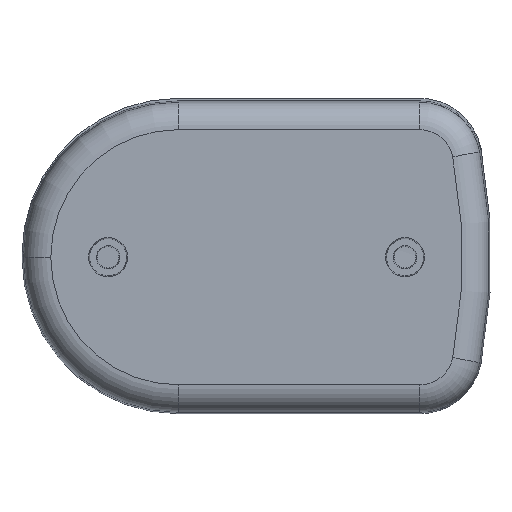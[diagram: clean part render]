
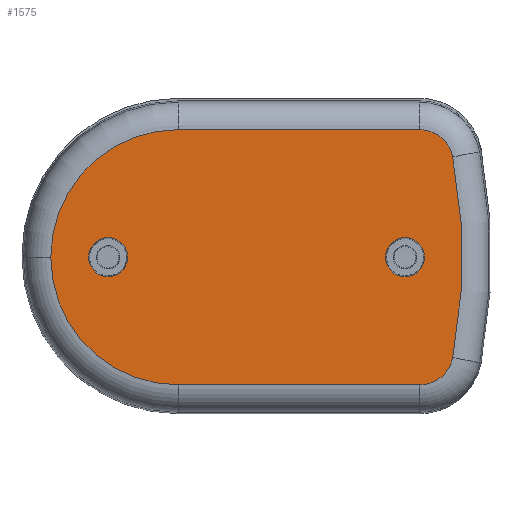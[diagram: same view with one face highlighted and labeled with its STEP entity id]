
A CAD part, top view. The second image highlights one B-rep face of the part: STEP entity #1575.
In plain terms, the highlighted planar face has unit normal (0, 0, 1).
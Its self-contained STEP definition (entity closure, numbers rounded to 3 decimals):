
#1470=FACE_BOUND('',#1997,.T.);
#1471=FACE_BOUND('',#1998,.T.);
#1472=FACE_BOUND('',#1999,.T.);
#1501=PLANE('',#4773);
#1575=ADVANCED_FACE('',(#1470,#1471,#1472),#1501,.T.);
#1997=EDGE_LOOP('',(#2764,#2765,#2766,#2767,#2768,#2769,#2770,#2771));
#1998=EDGE_LOOP('',(#2772));
#1999=EDGE_LOOP('',(#2773));
#2228=LINE('',#6024,#2460);
#2229=LINE('',#6033,#2461);
#2230=LINE('',#6037,#2462);
#2460=VECTOR('',#5180,1.);
#2461=VECTOR('',#5187,1.);
#2462=VECTOR('',#5190,1.);
#2764=ORIENTED_EDGE('',*,*,#3958,.T.);
#2765=ORIENTED_EDGE('',*,*,#3959,.T.);
#2766=ORIENTED_EDGE('',*,*,#3960,.T.);
#2767=ORIENTED_EDGE('',*,*,#3961,.T.);
#2768=ORIENTED_EDGE('',*,*,#3962,.T.);
#2769=ORIENTED_EDGE('',*,*,#3963,.T.);
#2770=ORIENTED_EDGE('',*,*,#3964,.T.);
#2771=ORIENTED_EDGE('',*,*,#3965,.T.);
#2772=ORIENTED_EDGE('',*,*,#3966,.F.);
#2773=ORIENTED_EDGE('',*,*,#3967,.F.);
#3654=VERTEX_POINT('',#6025);
#3655=VERTEX_POINT('',#6026);
#3656=VERTEX_POINT('',#6028);
#3657=VERTEX_POINT('',#6030);
#3658=VERTEX_POINT('',#6032);
#3659=VERTEX_POINT('',#6034);
#3660=VERTEX_POINT('',#6036);
#3661=VERTEX_POINT('',#6038);
#3662=VERTEX_POINT('',#6041);
#3663=VERTEX_POINT('',#6043);
#3958=EDGE_CURVE('',#3654,#3655,#2228,.T.);
#3959=EDGE_CURVE('',#3655,#3656,#4388,.T.);
#3960=EDGE_CURVE('',#3656,#3657,#4389,.T.);
#3961=EDGE_CURVE('',#3657,#3658,#4390,.T.);
#3962=EDGE_CURVE('',#3658,#3659,#2229,.T.);
#3963=EDGE_CURVE('',#3659,#3660,#4391,.T.);
#3964=EDGE_CURVE('',#3660,#3661,#2230,.T.);
#3965=EDGE_CURVE('',#3661,#3654,#4392,.T.);
#3966=EDGE_CURVE('',#3662,#3662,#4393,.T.);
#3967=EDGE_CURVE('',#3663,#3663,#4394,.T.);
#4388=CIRCLE('',#4766,4.312);
#4389=CIRCLE('',#4767,67.712);
#4390=CIRCLE('',#4768,4.312);
#4391=CIRCLE('',#4769,16.312);
#4392=CIRCLE('',#4770,16.312);
#4393=CIRCLE('',#4771,2.5);
#4394=CIRCLE('',#4772,2.5);
#4766=AXIS2_PLACEMENT_3D('',#6027,#5181,#5182);
#4767=AXIS2_PLACEMENT_3D('',#6029,#5183,#5184);
#4768=AXIS2_PLACEMENT_3D('',#6031,#5185,#5186);
#4769=AXIS2_PLACEMENT_3D('',#6035,#5188,#5189);
#4770=AXIS2_PLACEMENT_3D('',#6039,#5191,#5192);
#4771=AXIS2_PLACEMENT_3D('',#6040,#5193,#5194);
#4772=AXIS2_PLACEMENT_3D('',#6042,#5195,#5196);
#4773=AXIS2_PLACEMENT_3D('',#6044,#5197,#5198);
#5180=DIRECTION('',(1.,0.,0.));
#5181=DIRECTION('',(0.,0.,1.));
#5182=DIRECTION('',(0.,-1.,0.));
#5183=DIRECTION('',(0.,0.,1.));
#5184=DIRECTION('',(1.,0.,0.));
#5185=DIRECTION('',(0.,0.,1.));
#5186=DIRECTION('',(1.,0.,0.));
#5187=DIRECTION('',(-1.,0.,0.));
#5188=DIRECTION('',(0.,0.,1.));
#5189=DIRECTION('',(1.,0.,0.));
#5190=DIRECTION('',(0.,-1.,0.));
#5191=DIRECTION('',(0.,0.,1.));
#5192=DIRECTION('',(1.,0.,0.));
#5193=DIRECTION('',(0.,0.,1.));
#5194=DIRECTION('',(1.,0.,0.));
#5195=DIRECTION('',(0.,0.,1.));
#5196=DIRECTION('',(1.,0.,0.));
#5197=DIRECTION('',(0.,0.,1.));
#5198=DIRECTION('',(0.,1.,0.));
#6024=CARTESIAN_POINT('',(5.427,-16.332,7.));
#6025=CARTESIAN_POINT('',(-10.02,-16.332,7.));
#6026=CARTESIAN_POINT('',(20.874,-16.332,7.));
#6027=CARTESIAN_POINT('',(20.874,-12.02,7.));
#6028=CARTESIAN_POINT('',(25.108,-12.836,7.));
#6029=CARTESIAN_POINT('',(-41.38,-0.02,7.));
#6030=CARTESIAN_POINT('',(25.1,12.839,7.));
#6031=CARTESIAN_POINT('',(20.866,12.02,7.));
#6032=CARTESIAN_POINT('',(20.866,16.332,7.));
#6033=CARTESIAN_POINT('',(5.423,16.332,7.));
#6034=CARTESIAN_POINT('',(-10.02,16.332,7.));
#6035=CARTESIAN_POINT('',(-10.02,0.02,7.));
#6036=CARTESIAN_POINT('',(-26.332,0.02,7.));
#6037=CARTESIAN_POINT('',(-26.332,0.,7.));
#6038=CARTESIAN_POINT('',(-26.332,-0.02,7.));
#6039=CARTESIAN_POINT('',(-10.02,-0.02,7.));
#6040=CARTESIAN_POINT('',(19.,0.,7.));
#6041=CARTESIAN_POINT('',(19.,2.5,7.));
#6042=CARTESIAN_POINT('',(-19.,0.,7.));
#6043=CARTESIAN_POINT('',(-19.,2.5,7.));
#6044=CARTESIAN_POINT('',(34.407,-23.088,7.));
